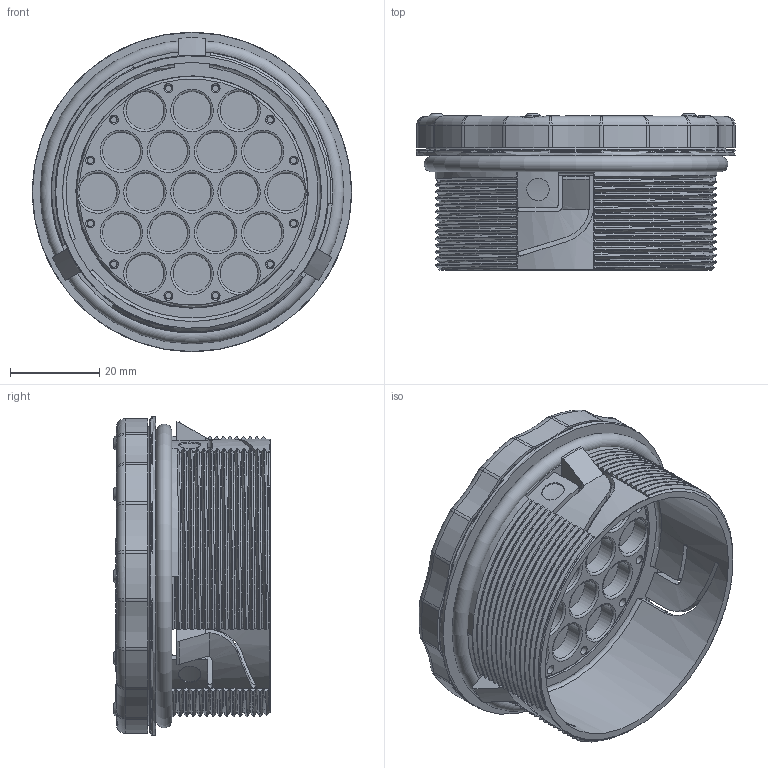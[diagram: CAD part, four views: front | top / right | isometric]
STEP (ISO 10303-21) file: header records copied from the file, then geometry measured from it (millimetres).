
FILE_DESCRIPTION(/* description */ (''),/* implementation_level */ '2;1');
FILE_NAME(/* name */ 'C:\SapWorkDir\Inventor\MP1\ConvertTempPath\87_16_121510_00_A_220622_KDP-R M63-19 ZSB.stp',/* time_stamp */ '2022-06-23T08:28:30+02:00',/* author */ ('BAUER'),/* organization */ (''),/* preprocessor_version */ 'ST-DEVELOPER v16.13',/* originating_system */ 'Autodesk Inventor 2018',/* authorisation */ '');
FILE_SCHEMA (('AUTOMOTIVE_DESIGN { 1 0 10303 214 3 1 1 }'));
Products named in the file (7): 121510; Gehäuse; 87.16.42.1; 87.16.42.2; 87.16.42.3; 121502; 87.16.43.6
Assembly tree (6 placements, depth 2):
  121510
    Gehäuse
    87.16.42.1
    87.16.42.2
    87.16.42.3
    121502
    87.16.43.6
Bounding box: 71.4 x 35 x 71.4 mm (x, y, z)
Volume: 43745.3 mm3; surface area: 49502.7 mm2
Topology: 6 solids, 6 shells, 1836 faces, 4784 edges, 3005 vertices
Faces by surface type: cylinder 590, plane 525, bspline 358, torus 251, sphere 86, cone 26
Full cylindrical faces by diameter (mm): 2 x12, 3.8 x11, 4 x2, 5 x5, 5.141 x1, 5.16 x3, 6.2 x5, 8 x19, 8.5 x19, 10.1 x19, 10.134 x19, 55.7 x2, 58 x1, 59 x2, 59.2 x1, 61.7 x1, 63 x1, 66.4 x1, 67.4 x1, 71.4 x1
Entity records: 65982 total; most frequent: CARTESIAN_POINT 23489, ORIENTED_EDGE 8912, DIRECTION 8315, EDGE_CURVE 4456, AXIS2_PLACEMENT_3D 3340, VERTEX_POINT 2944, EDGE_LOOP 2254, FACE_OUTER_BOUND 1835
